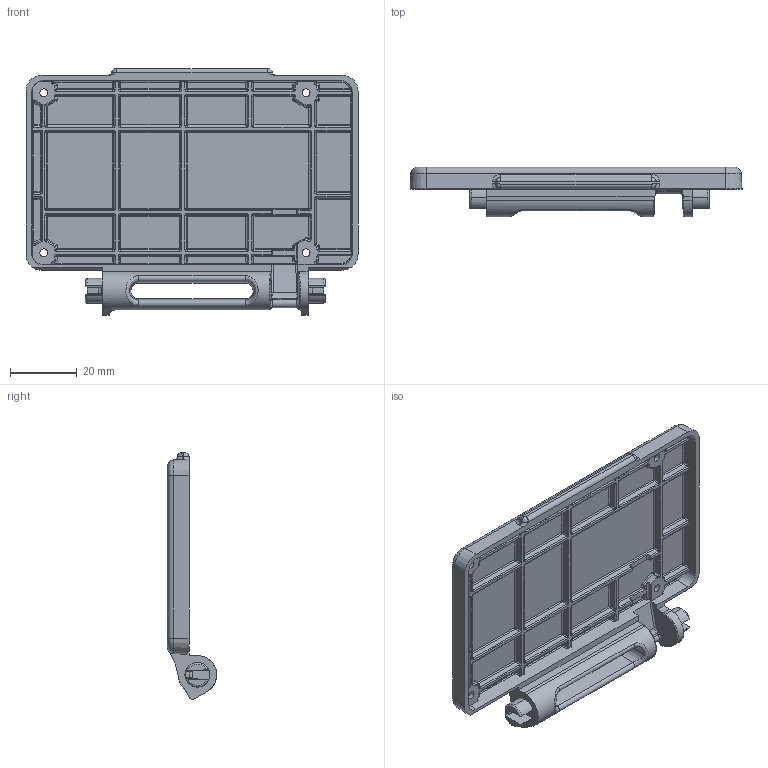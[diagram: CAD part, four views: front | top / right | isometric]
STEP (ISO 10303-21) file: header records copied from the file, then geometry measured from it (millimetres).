
FILE_DESCRIPTION(/* description */ (''),/* implementation_level */ '2;1');
FILE_NAME(/* name */ 'frameLidFDM.step',/* time_stamp */ '2026-07-04T13:57:28-07:00',/* author */ (''),/* organization */ (''),/* preprocessor_version */ 'ST-DEVELOPER v20.1',/* originating_system */ 'Autodesk Translation Framework v15.8.0.0',/* authorisation */ '');
FILE_SCHEMA (('AUTOMOTIVE_DESIGN { 1 0 10303 214 3 1 1 }'));
Length unit declared in the file: millimetre
Products named in the file (1): frameLid
Bounding box: 99.63 x 14.8 x 74.03 mm (x, y, z)
Volume: 19135.6 mm3; surface area: 19798.8 mm2
Topology: 1 solids, 1 shells, 1353 faces, 3411 edges, 2058 vertices
Faces by surface type: bspline 522, cylinder 406, plane 325, sphere 75, cone 14, torus 11
Entity records: 45552 total; most frequent: CARTESIAN_POINT 15702, ORIENTED_EDGE 6754, DIRECTION 5305, EDGE_CURVE 3377, VERTEX_POINT 2058, AXIS2_PLACEMENT_3D 1856, LINE 1593, VECTOR 1593
